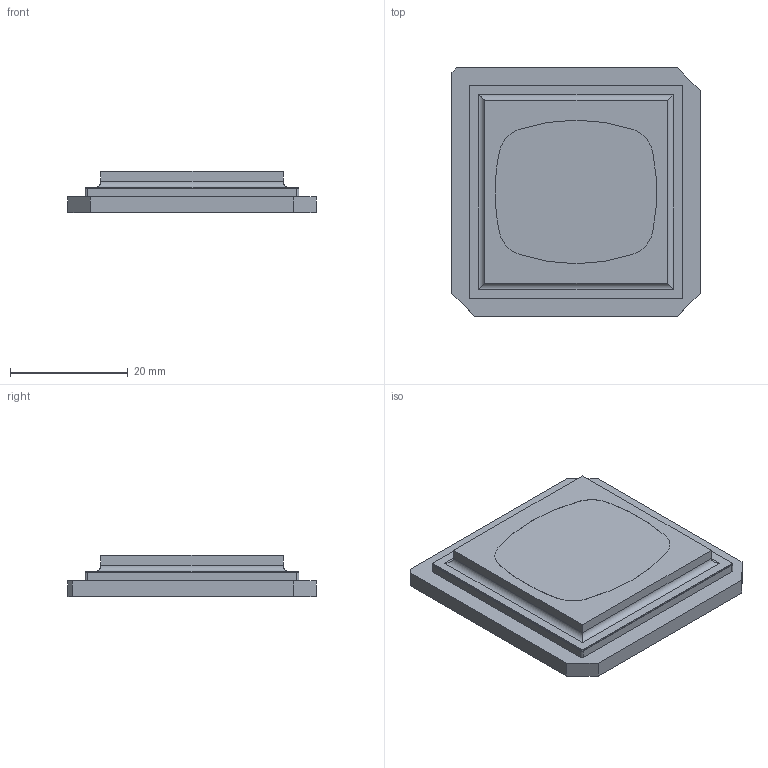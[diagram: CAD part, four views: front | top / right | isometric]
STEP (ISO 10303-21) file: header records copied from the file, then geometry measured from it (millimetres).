
FILE_DESCRIPTION (( 'STEP AP214' ), '1' );
FILE_NAME ('2518450-TA-98-4K-TRP-DMD.STEP', '2023-02-08T15:35:08', ( '' ), ( '' ), 'SwSTEP 2.0', 'SolidWorks 2021', '' );
FILE_SCHEMA (( 'AUTOMOTIVE_DESIGN' ));
Length unit declared in the file: millimetre
Products named in the file (6): TA-98-4K-SST-CeramicPillowSTEP-wAperture; 2518450-TA-98-4K-TRP-DMD; TA-9-Pillow-WGlass; Pad-Pattern-321; Pad-Electrical; Pad-Marking
Assembly tree (325 placements, depth 3):
  2518450-TA-98-4K-TRP-DMD
    TA-98-4K-SST-CeramicPillowSTEP-wAperture
    TA-9-Pillow-WGlass
    Pad-Marking
    Pad-Pattern-321
      Pad-Electrical  x321
Bounding box: 42.16 x 42.16 x 7.03 mm (x, y, z)
Volume: 8339.9 mm3; surface area: 9429.7 mm2
Topology: 324 solids, 324 shells, 1369 faces, 2135 edges, 1422 vertices
Faces by surface type: plane 692, cylinder 677
Entity records: 6036 total; most frequent: DIRECTION 1113, CARTESIAN_POINT 787, AXIS2_PLACEMENT_3D 484, ORIENTED_EDGE 430, PRODUCT_DEFINITION_SHAPE 331, ITEM_DEFINED_TRANSFORMATION 325, CONTEXT_DEPENDENT_SHAPE_REPRESENTATION 325, NEXT_ASSEMBLY_USAGE_OCCURRENCE 325
